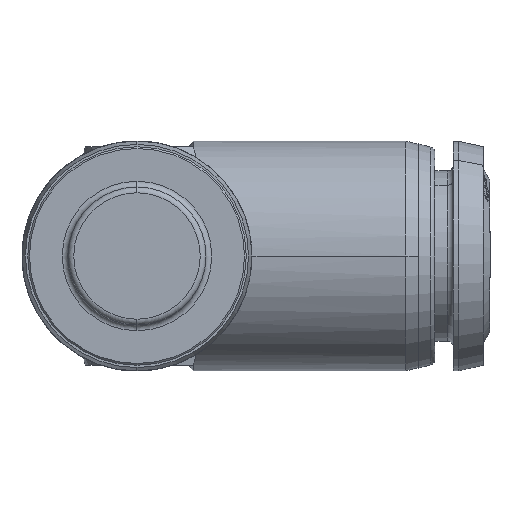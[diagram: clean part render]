
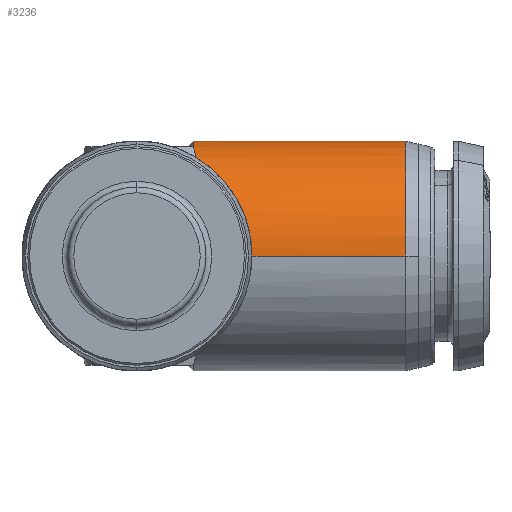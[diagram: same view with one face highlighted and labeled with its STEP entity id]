
A CAD part, left-side view. The second image highlights one B-rep face of the part: STEP entity #3236.
In plain terms, the highlighted cylindrical face has radius 10 mm (diameter 20 mm), a partial arc.
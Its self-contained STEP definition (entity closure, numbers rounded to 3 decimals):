
#158 = DIRECTION ( 'NONE',  ( 0., 1., 0. ) ) ;
#544 = CARTESIAN_POINT ( 'NONE',  ( 10., -10., 0. ) ) ;
#625 = CARTESIAN_POINT ( 'NONE',  ( -3.123, -4.898, 9.5 ) ) ;
#780 =( BOUNDED_CURVE ( )  B_SPLINE_CURVE ( 3, ( #9752, #14012, #11758, #13800 ),
 .UNSPECIFIED., .F., .T. ) 
 B_SPLINE_CURVE_WITH_KNOTS ( ( 4, 4 ),
 ( 2.103, 3.142 ),
 .UNSPECIFIED. ) 
 CURVE ( )  GEOMETRIC_REPRESENTATION_ITEM ( )  RATIONAL_B_SPLINE_CURVE ( ( 1., 0.912, 0.912, 1. ) ) 
 REPRESENTATION_ITEM ( '' )  );
#932 = CARTESIAN_POINT ( 'NONE',  ( 5.071, -5.071, 8.619 ) ) ;
#983 = FACE_OUTER_BOUND ( 'NONE', #9246, .T. ) ;
#1008 = AXIS2_PLACEMENT_3D ( 'NONE', #11022, #158, #2214 ) ;
#1072 = EDGE_CURVE ( 'NONE', #1421, #7057, #10934, .T. ) ;
#1124 = CARTESIAN_POINT ( 'NONE',  ( 10., 0., 0. ) ) ;
#1171 = CARTESIAN_POINT ( 'NONE',  ( -5.031, -5.128, 8.642 ) ) ;
#1229 =( BOUNDED_CURVE ( )  B_SPLINE_CURVE ( 3, ( #5047, #10484, #11335, #3886 ),
 .UNSPECIFIED., .F., .T. ) 
 B_SPLINE_CURVE_WITH_KNOTS ( ( 4, 4 ),
 ( 5.54, 5.544 ),
 .UNSPECIFIED. ) 
 CURVE ( )  GEOMETRIC_REPRESENTATION_ITEM ( )  RATIONAL_B_SPLINE_CURVE ( ( 1., 1., 1., 1. ) ) 
 REPRESENTATION_ITEM ( '' )  );
#1297 = VERTEX_POINT ( 'NONE', #544 ) ;
#1421 = VERTEX_POINT ( 'NONE', #8102 ) ;
#1912 = CARTESIAN_POINT ( 'NONE',  ( 0., -4.898, 0. ) ) ;
#1919 = ORIENTED_EDGE ( 'NONE', *, *, #6692, .F. ) ;
#2007 = ORIENTED_EDGE ( 'NONE', *, *, #3145, .T. ) ;
#2104 = CARTESIAN_POINT ( 'NONE',  ( -4.426, -5.034, 8.994 ) ) ;
#2111 = ORIENTED_EDGE ( 'NONE', *, *, #7929, .F. ) ;
#2214 = DIRECTION ( 'NONE',  ( -1., 0., 0. ) ) ;
#2734 = CARTESIAN_POINT ( 'NONE',  ( 3.123, -4.898, 9.5 ) ) ;
#2785 = CARTESIAN_POINT ( 'NONE',  ( -5.031, -5.128, 8.642 ) ) ;
#2861 = ORIENTED_EDGE ( 'NONE', *, *, #11596, .F. ) ;
#3145 = EDGE_CURVE ( 'NONE', #5839, #1297, #12742, .T. ) ;
#3236 = ADVANCED_FACE ( 'NONE', ( #983 ), #10583, .T. ) ;
#3400 = VERTEX_POINT ( 'NONE', #625 ) ;
#3886 = CARTESIAN_POINT ( 'NONE',  ( 5.071, -5.071, 8.619 ) ) ;
#4143 =( BOUNDED_CURVE ( )  B_SPLINE_CURVE ( 3, ( #2734, #5886, #6939, #8010 ),
 .UNSPECIFIED., .F., .F. ) 
 B_SPLINE_CURVE_WITH_KNOTS ( ( 4, 4 ),
 ( 0.318, 0.527 ),
 .UNSPECIFIED. ) 
 CURVE ( )  GEOMETRIC_REPRESENTATION_ITEM ( )  RATIONAL_B_SPLINE_CURVE ( ( 1., 0.996, 0.996, 1. ) ) 
 REPRESENTATION_ITEM ( '' )  );
#4188 = DIRECTION ( 'NONE',  ( 0., 1., 0. ) ) ;
#4663 = CARTESIAN_POINT ( 'NONE',  ( -5.031, -5.128, 8.642 ) ) ;
#4710 = AXIS2_PLACEMENT_3D ( 'NONE', #7397, #11689, #5284 ) ;
#5003 = EDGE_CURVE ( 'NONE', #8615, #1297, #9439, .T. ) ;
#5047 = CARTESIAN_POINT ( 'NONE',  ( 5.031, -5.128, 8.642 ) ) ;
#5081 = LINE ( 'NONE', #13600, #7016 ) ;
#5141 = AXIS2_PLACEMENT_3D ( 'NONE', #1912, #11703, #9415 ) ;
#5284 = DIRECTION ( 'NONE',  ( -1., 0., 0. ) ) ;
#5390 = VECTOR ( 'NONE', #4188, 1000. ) ;
#5400 = CARTESIAN_POINT ( 'NONE',  ( 10., -10., 0. ) ) ;
#5815 = CIRCLE ( 'NONE', #5141, 10. ) ;
#5839 = VERTEX_POINT ( 'NONE', #11301 ) ;
#5886 = CARTESIAN_POINT ( 'NONE',  ( 3.788, -4.957, 9.281 ) ) ;
#5990 = ORIENTED_EDGE ( 'NONE', *, *, #1072, .F. ) ;
#6692 = EDGE_CURVE ( 'NONE', #7909, #11103, #5081, .T. ) ;
#6939 = CARTESIAN_POINT ( 'NONE',  ( 4.426, -5.034, 8.994 ) ) ;
#7016 = VECTOR ( 'NONE', #11434, 1000. ) ;
#7057 = VERTEX_POINT ( 'NONE', #1171 ) ;
#7397 = CARTESIAN_POINT ( 'NONE',  ( 0., 0., 0. ) ) ;
#7909 = VERTEX_POINT ( 'NONE', #9198 ) ;
#7929 = EDGE_CURVE ( 'NONE', #7057, #3400, #13356, .T. ) ;
#7969 = EDGE_CURVE ( 'NONE', #1421, #11103, #780, .T. ) ;
#8010 = CARTESIAN_POINT ( 'NONE',  ( 5.031, -5.128, 8.642 ) ) ;
#8034 = ORIENTED_EDGE ( 'NONE', *, *, #10737, .F. ) ;
#8074 = VERTEX_POINT ( 'NONE', #12507 ) ;
#8102 = CARTESIAN_POINT ( 'NONE',  ( -5.071, -5.071, 8.619 ) ) ;
#8465 = CARTESIAN_POINT ( 'NONE',  ( -3.788, -4.957, 9.281 ) ) ;
#8494 = CARTESIAN_POINT ( 'NONE',  ( -10., -10., 0. ) ) ;
#8506 = CARTESIAN_POINT ( 'NONE',  ( 5.071, -5.071, 8.619 ) ) ;
#8615 = VERTEX_POINT ( 'NONE', #932 ) ;
#8675 = CARTESIAN_POINT ( 'NONE',  ( -3.123, -4.898, 9.5 ) ) ;
#8993 = CARTESIAN_POINT ( 'NONE',  ( -5.045, -5.109, 8.634 ) ) ;
#9198 = CARTESIAN_POINT ( 'NONE',  ( -10., -23.38, 0. ) ) ;
#9246 = EDGE_LOOP ( 'NONE', ( #11087, #2007, #13748, #8034, #12050, #2861, #2111, #5990, #11564, #1919 ) ) ;
#9415 = DIRECTION ( 'NONE',  ( 1., 0., 0. ) ) ;
#9439 =( BOUNDED_CURVE ( )  B_SPLINE_CURVE ( 3, ( #8506, #13840, #13911, #5400 ),
 .UNSPECIFIED., .F., .T. ) 
 B_SPLINE_CURVE_WITH_KNOTS ( ( 4, 4 ),
 ( 2.103, 3.142 ),
 .UNSPECIFIED. ) 
 CURVE ( )  GEOMETRIC_REPRESENTATION_ITEM ( )  RATIONAL_B_SPLINE_CURVE ( ( 1., 0.912, 0.912, 1. ) ) 
 REPRESENTATION_ITEM ( '' )  );
#9752 = CARTESIAN_POINT ( 'NONE',  ( -5.071, -5.071, 8.619 ) ) ;
#10315 = CARTESIAN_POINT ( 'NONE',  ( -5.071, -5.071, 8.619 ) ) ;
#10401 = CARTESIAN_POINT ( 'NONE',  ( 5.031, -5.128, 8.642 ) ) ;
#10484 = CARTESIAN_POINT ( 'NONE',  ( 5.045, -5.109, 8.634 ) ) ;
#10583 = CYLINDRICAL_SURFACE ( 'NONE', #4710, 10. ) ;
#10737 = EDGE_CURVE ( 'NONE', #11015, #8615, #1229, .T. ) ;
#10934 =( BOUNDED_CURVE ( )  B_SPLINE_CURVE ( 3, ( #10315, #12199, #8993, #4663 ),
 .UNSPECIFIED., .F., .T. ) 
 B_SPLINE_CURVE_WITH_KNOTS ( ( 4, 4 ),
 ( 0.739, 0.744 ),
 .UNSPECIFIED. ) 
 CURVE ( )  GEOMETRIC_REPRESENTATION_ITEM ( )  RATIONAL_B_SPLINE_CURVE ( ( 1., 1., 1., 1. ) ) 
 REPRESENTATION_ITEM ( '' )  );
#11016 = EDGE_CURVE ( 'NONE', #8074, #11015, #4143, .T. ) ;
#11015 = VERTEX_POINT ( 'NONE', #10401 ) ;
#11022 = CARTESIAN_POINT ( 'NONE',  ( 0., -23.38, 0. ) ) ;
#11087 = ORIENTED_EDGE ( 'NONE', *, *, #11273, .T. ) ;
#11103 = VERTEX_POINT ( 'NONE', #8494 ) ;
#11273 = EDGE_CURVE ( 'NONE', #7909, #5839, #13225, .T. ) ;
#11301 = CARTESIAN_POINT ( 'NONE',  ( 10., -23.38, 0. ) ) ;
#11335 = CARTESIAN_POINT ( 'NONE',  ( 5.058, -5.09, 8.627 ) ) ;
#11434 = DIRECTION ( 'NONE',  ( 0., 1., 0. ) ) ;
#11564 = ORIENTED_EDGE ( 'NONE', *, *, #7969, .T. ) ;
#11596 = EDGE_CURVE ( 'NONE', #3400, #8074, #5815, .T. ) ;
#11689 = DIRECTION ( 'NONE',  ( 0., 1., 0. ) ) ;
#11703 = DIRECTION ( 'NONE',  ( 0., 1., 0. ) ) ;
#11758 = CARTESIAN_POINT ( 'NONE',  ( -10., -10., 3.629 ) ) ;
#12050 = ORIENTED_EDGE ( 'NONE', *, *, #11016, .F. ) ;
#12199 = CARTESIAN_POINT ( 'NONE',  ( -5.058, -5.09, 8.627 ) ) ;
#12507 = CARTESIAN_POINT ( 'NONE',  ( 3.123, -4.898, 9.5 ) ) ;
#12742 = LINE ( 'NONE', #1124, #5390 ) ;
#13225 = CIRCLE ( 'NONE', #1008, 10. ) ;
#13356 =( BOUNDED_CURVE ( )  B_SPLINE_CURVE ( 3, ( #2785, #2104, #8465, #8675 ),
 .UNSPECIFIED., .F., .T. ) 
 B_SPLINE_CURVE_WITH_KNOTS ( ( 4, 4 ),
 ( 5.756, 5.966 ),
 .UNSPECIFIED. ) 
 CURVE ( )  GEOMETRIC_REPRESENTATION_ITEM ( )  RATIONAL_B_SPLINE_CURVE ( ( 1., 0.996, 0.996, 1. ) ) 
 REPRESENTATION_ITEM ( '' )  );
#13600 = CARTESIAN_POINT ( 'NONE',  ( -10., 0., 0. ) ) ;
#13748 = ORIENTED_EDGE ( 'NONE', *, *, #5003, .F. ) ;
#13800 = CARTESIAN_POINT ( 'NONE',  ( -10., -10., 0. ) ) ;
#13840 = CARTESIAN_POINT ( 'NONE',  ( 8.199, -8.199, 6.779 ) ) ;
#13911 = CARTESIAN_POINT ( 'NONE',  ( 10., -10., 3.629 ) ) ;
#14012 = CARTESIAN_POINT ( 'NONE',  ( -8.199, -8.199, 6.779 ) ) ;
